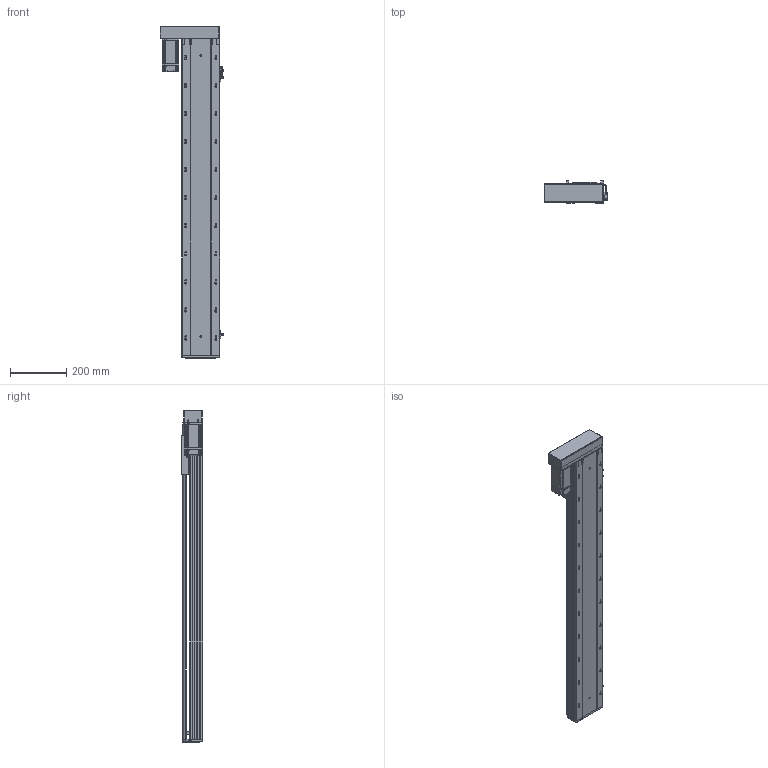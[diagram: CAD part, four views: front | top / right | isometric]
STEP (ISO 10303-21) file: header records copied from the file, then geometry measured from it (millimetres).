
FILE_DESCRIPTION (( 'STEP AP203' ), '1' );
FILE_NAME ('RY140-L1620-300-LK.SLDASM_900.step', '2021-02-22T02:46:57', ( '盈信电脑' ), ( '东莞市道滘镇水果街19号' ), 'SwSTEP 2.0', 'SolidWorks 2012', '' );
FILE_SCHEMA (( 'CONFIG_CONTROL_DESIGN' ));
Products named in the file (14): RY140酘衵殏萇儂欶; RY140-L1620-300-LK.SLDASM_900; 侂狟400W侜督萇儂; 15; RY120外置感应片(140共用）; RY140蛌殏萇儂假蚾啣; RY140转折电机端支撑座; 覜茼ん672; RY140綴裔啣; 滅袉蝶18-10; 滅袉蝶18-24; RY140-300蛌殏倰第菁釱-LK_900; RY140-300蛌殏倰第奻裔啣-LK_900; RY140臏賑輸
Assembly tree (16 placements, depth 3):
  RY140-L1620-300-LK.SLDASM_900
    RY140-300蛌殏倰第菁釱-LK_900
    RY140臏賑輸
    RY140-300蛌殏倰第奻裔啣-LK_900
    RY140綴裔啣
    滅袉蝶18-24  x2
    滅袉蝶18-10
    覜茼ん672  x3
    RY120外置感应片(140共用）
    RY140转折电机端支撑座
    RY140蛌殏萇儂假蚾啣
    侂狟400W侜督萇儂
      15
    RY140酘衵殏萇儂欶
Bounding box: 225.2 x 78 x 1183 mm (x, y, z)
Volume: 3756513.5 mm3; surface area: 1396410 mm2
Topology: 15 solids, 15 shells, 2403 faces, 6700 edges, 4290 vertices
Faces by surface type: plane 1174, cylinder 930, cone 206, bspline 93
Entity records: 76887 total; most frequent: CARTESIAN_POINT 18801, ORIENTED_EDGE 12080, DIRECTION 11361, EDGE_CURVE 6040, VERTEX_POINT 3958, AXIS2_PLACEMENT_3D 3792, LINE 3777, VECTOR 3777
